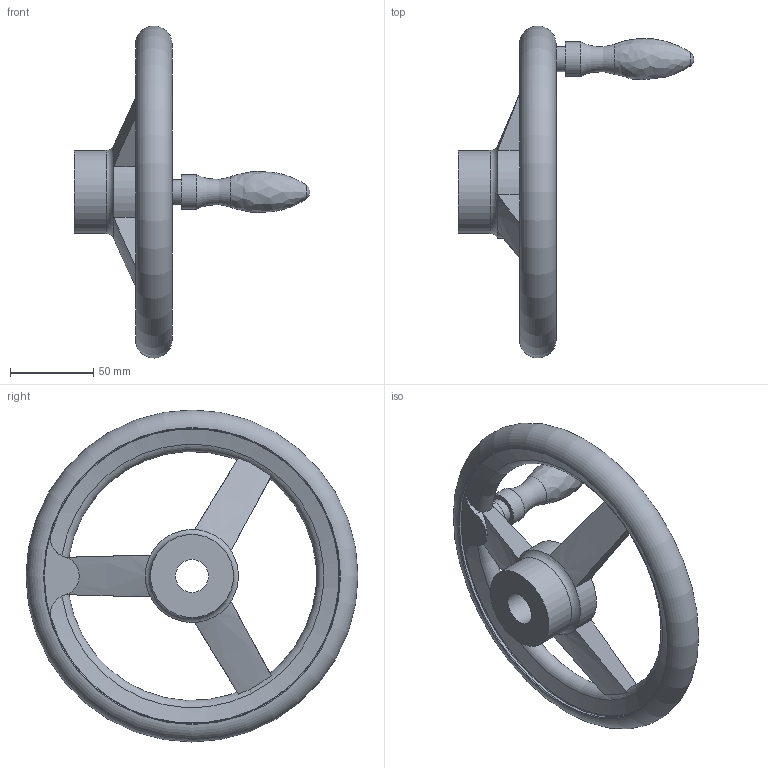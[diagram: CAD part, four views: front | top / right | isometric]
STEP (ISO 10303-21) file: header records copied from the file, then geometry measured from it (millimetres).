
FILE_DESCRIPTION( ( 'STEP AP203' ), '1' );
FILE_NAME( 'C:/Temp/Ganter_Step_05_03_2020/data/1_3/gn_950_1/gn_950_1_b/gn_950_1_b_d/Handwheel GN 950.1-GG-200-B20-D.stp', '2020-03-05T10:32:34', ( 'License CC BY-ND 4.0' ), ( 'CADENAS' ), ' ', 'PARTsolutions', ' ' );
FILE_SCHEMA( ( 'CONFIG_CONTROL_DESIGN' ) );
Length unit declared in the file: millimetre
Products named in the file (1): _Handwheel GN 950.1-GG-200-B20-D
Bounding box: 142 x 199.98 x 199.98 mm (x, y, z)
Volume: 340583 mm3; surface area: 68836.1 mm2
Topology: 1 solids, 1 shells, 48 faces, 136 edges, 87 vertices
Faces by surface type: cylinder 16, torus 13, plane 11, cone 6, bspline 1, sphere 1
Full cylindrical faces by diameter (mm): 15 x1, 20 x1, 21 x1, 50 x2, 178 x2
Entity records: 1874 total; most frequent: CARTESIAN_POINT 734, ORIENTED_EDGE 224, DIRECTION 210, EDGE_CURVE 112, AXIS2_PLACEMENT_3D 100, VERTEX_POINT 83, EDGE_LOOP 71, FACE_OUTER_BOUND 64
